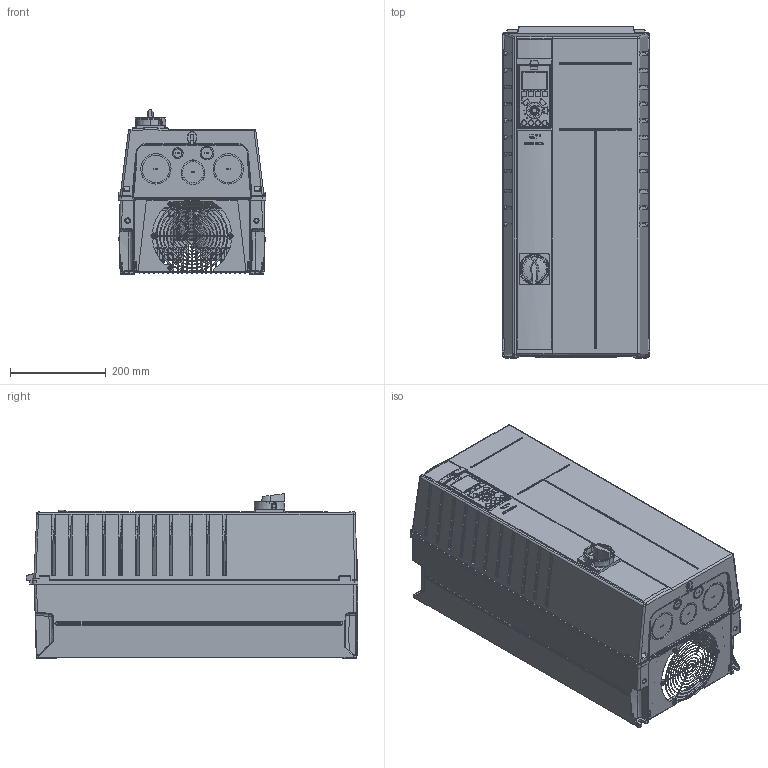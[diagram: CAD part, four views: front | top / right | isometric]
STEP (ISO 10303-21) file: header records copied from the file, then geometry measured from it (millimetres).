
FILE_DESCRIPTION((''),'2;1');
FILE_NAME('DANFOSS-FC100-C1-IP21-SWITCH','2011-10-13T',('cstephenkumar'),('Be-Atch INC. 1993'),'PRO/ENGINEER BY PARAMETRIC TECHNOLOGY CORPORATION, 2009360','PRO/ENGINEER BY PARAMETRIC TECHNOLOGY CORPORATION, 2009360','');
FILE_SCHEMA(('AUTOMOTIVE_DESIGN { 1 0 10303 214 1 1 1 1 }'));
Length unit declared in the file: millimetre
Products named in the file (1): DANFOSS-FC100-C1-IP21-SWITCH
Bounding box: 308.54 x 692.9 x 343.53 mm (x, y, z)
Volume: 42180567.1 mm3; surface area: 3380219.4 mm2
Topology: 1 solids, 22 shells, 5195 faces, 13607 edges, 8391 vertices
Faces by surface type: plane 1857, cylinder 1544, bspline 1100, cone 382, torus 275, sphere 28, extrusion 9
Entity records: 211652 total; most frequent: CARTESIAN_POINT 91882, ORIENTED_EDGE 27070, DIRECTION 21351, EDGE_CURVE 13535, VERTEX_POINT 8389, AXIS2_PLACEMENT_3D 7408, VECTOR 6535, LINE 6526
